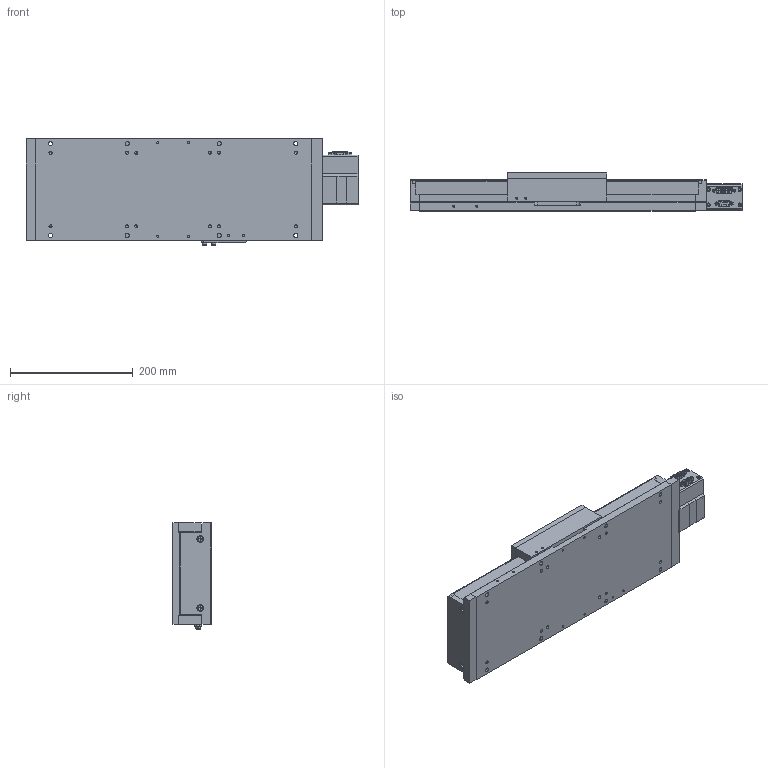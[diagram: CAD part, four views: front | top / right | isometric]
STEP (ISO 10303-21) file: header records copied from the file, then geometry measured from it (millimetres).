
FILE_DESCRIPTION (( 'STEP AP214' ), '1' );
FILE_NAME ('LM3-250-BS-A-H-S-EXPORT.STEP', '2024-05-07T14:52:46', ( 'lab' ), ( '' ), 'SwSTEP 2.0', 'SolidWorks 2018', '' );
FILE_SCHEMA (( 'AUTOMOTIVE_DESIGN' ));
Length unit declared in the file: millimetre
Products named in the file (16): 1000007; 1000010; 1000006; 1000018; 1000003_91290A148; 1000013; 1000004; LM3-250-BS-A-H-S-EXPORT; 1000012; 1000014_91290A150; 1000011_250; 1000001; 1000005; 1000009; 1000002; 1000008
Assembly tree (27 placements, depth 3):
  LM3-250-BS-A-H-S-EXPORT
    1000018
      1000001  x2
      1000002
      1000003_91290A148  x2
      1000004
      1000005
      1000006
      1000007
      1000008
      1000009
      1000010  x4
      1000011_250
      1000012
      1000013
      1000014_91290A150  x8
Bounding box: 541.4 x 62 x 173 mm (x, y, z)
Volume: 4109036.6 mm3; surface area: 412696.5 mm2
Topology: 78 solids, 78 shells, 1728 faces, 3950 edges, 2430 vertices
Faces by surface type: plane 893, cylinder 465, cone 200, bspline 170
Entity records: 52699 total; most frequent: CARTESIAN_POINT 13087, DIRECTION 6644, ORIENTED_EDGE 6488, EDGE_CURVE 3244, AXIS2_PLACEMENT_3D 2352, VERTEX_POINT 2067, VECTOR 1940, LINE 1940
